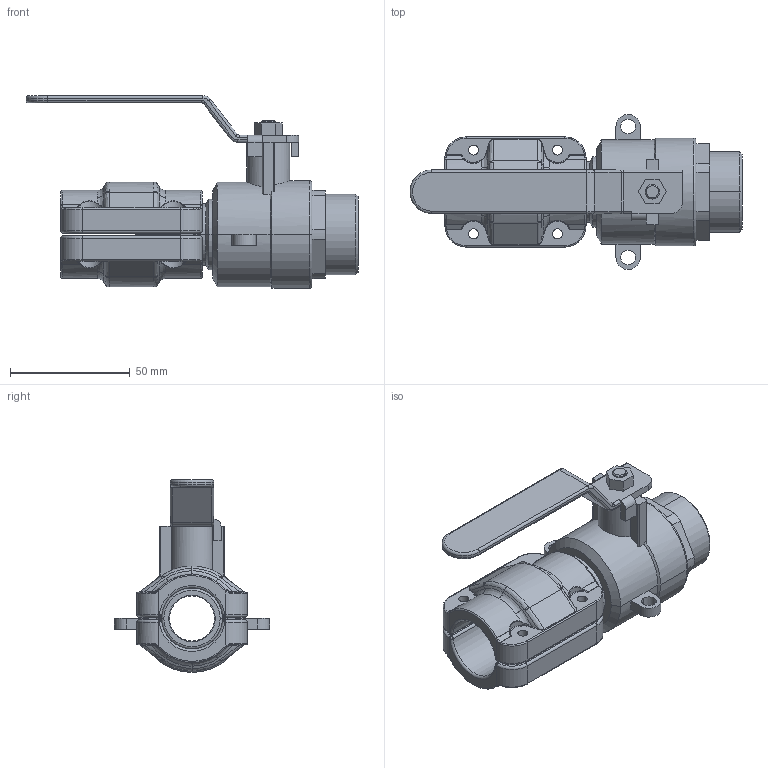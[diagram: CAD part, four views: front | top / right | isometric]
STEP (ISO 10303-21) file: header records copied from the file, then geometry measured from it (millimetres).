
FILE_DESCRIPTION((''),'2;1');
FILE_NAME('AU15235199_ASM','2017-05-13T',('li'),(''),'PRO/ENGINEER BY PARAMETRIC TECHNOLOGY CORPORATION, 2009360','PRO/ENGINEER BY PARAMETRIC TECHNOLOGY CORPORATION, 2009360','');
FILE_SCHEMA(('AUTOMOTIVE_DESIGN { 1 0 10303 214 1 1 1 1 }'));
Length unit declared in the file: millimetre
Products named in the file (5): AU15235100; 201520020000_23; 201520020001_10; 2015200200_ASM; AU15235199_ASM
Assembly tree (4 placements, depth 3):
  AU15235199_ASM
    AU15235100
    2015200200_ASM
      201520020000_23
      201520020001_10
Bounding box: 138.63 x 64.76 x 80.5 mm (x, y, z)
Volume: 104114.9 mm3; surface area: 46653.3 mm2
Topology: 3 solids, 3 shells, 469 faces, 1110 edges, 655 vertices
Faces by surface type: cylinder 159, bspline 144, plane 85, torus 54, cone 19, sphere 8
Entity records: 22205 total; most frequent: CARTESIAN_POINT 8693, ORIENTED_EDGE 2220, DIRECTION 1831, PRESENTATION_STYLE_ASSIGNMENT 1113, STYLED_ITEM 1113, CURVE_STYLE 1110, EDGE_CURVE 1110, AXIS2_PLACEMENT_3D 736
